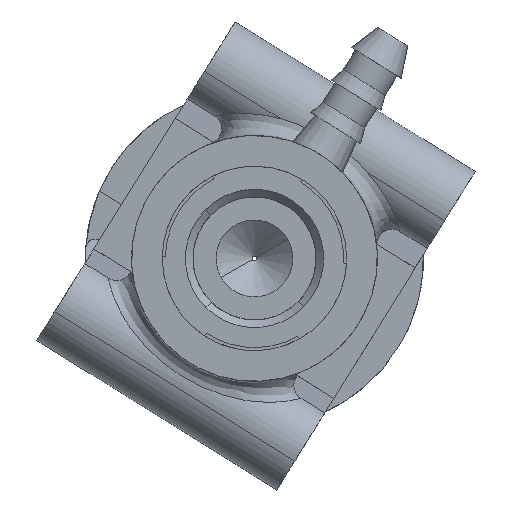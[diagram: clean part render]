
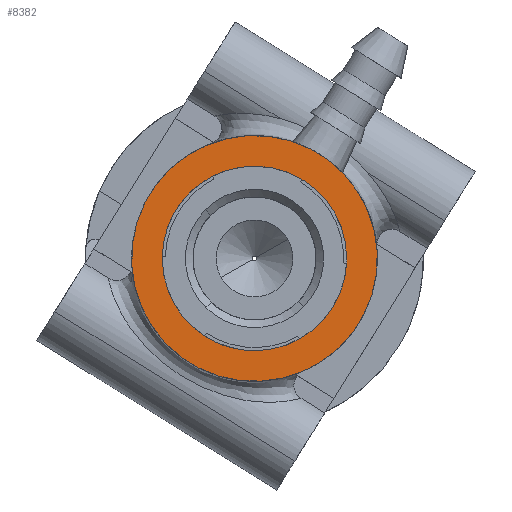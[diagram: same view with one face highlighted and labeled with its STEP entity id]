
A CAD part, front view. The second image highlights one B-rep face of the part: STEP entity #8382.
In plain terms, the highlighted planar face has unit normal (0, -1, 0).
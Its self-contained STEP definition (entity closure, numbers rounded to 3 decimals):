
#8284=AXIS2_PLACEMENT_3D('Circle Axis2P3D',#8282,#8283,$) ;
#8321=AXIS2_PLACEMENT_3D('Circle Axis2P3D',#8319,#8320,$) ;
#8358=AXIS2_PLACEMENT_3D('Plane Axis2P3D',#8355,#8356,#8357) ;
#8366=AXIS2_PLACEMENT_3D('Circle Axis2P3D',#8364,#8365,$) ;
#8375=AXIS2_PLACEMENT_3D('Circle Axis2P3D',#8373,#8374,$) ;
#8272=CARTESIAN_POINT('Vertex',(-186.882,-1373.001,344.406)) ;
#8279=CARTESIAN_POINT('Vertex',(-171.57,-1373.001,339.765)) ;
#8282=CARTESIAN_POINT('Axis2P3D Location',(-179.226,-1373.001,342.086)) ;
#8319=CARTESIAN_POINT('Axis2P3D Location',(-179.226,-1373.001,342.086)) ;
#8355=CARTESIAN_POINT('Axis2P3D Location',(0.,-1373.001,0.)) ;
#8364=CARTESIAN_POINT('Axis2P3D Location',(-179.226,-1373.001,342.086)) ;
#8368=CARTESIAN_POINT('Vertex',(-185.226,-1373.001,342.086)) ;
#8370=CARTESIAN_POINT('Vertex',(-173.226,-1373.001,342.086)) ;
#8373=CARTESIAN_POINT('Axis2P3D Location',(-179.226,-1373.001,342.086)) ;
#8283=DIRECTION('Axis2P3D Direction',(0.,1.,0.)) ;
#8320=DIRECTION('Axis2P3D Direction',(0.,1.,0.)) ;
#8356=DIRECTION('Axis2P3D Direction',(0.,-1.,0.)) ;
#8357=DIRECTION('Axis2P3D XDirection',(1.,0.,0.)) ;
#8365=DIRECTION('Axis2P3D Direction',(0.,-1.,0.)) ;
#8374=DIRECTION('Axis2P3D Direction',(0.,-1.,0.)) ;
#8361=ORIENTED_EDGE('',*,*,#8286,.T.) ;
#8362=ORIENTED_EDGE('',*,*,#8323,.T.) ;
#8379=ORIENTED_EDGE('',*,*,#8372,.F.) ;
#8380=ORIENTED_EDGE('',*,*,#8377,.F.) ;
#8381=FACE_BOUND('',#8378,.T.) ;
#8382=ADVANCED_FACE('MANIFOLD_SOLID_BREP #410',(#8363,#8381),#8359,.T.) ;
#8285=CIRCLE('generated circle',#8284,8.) ;
#8322=CIRCLE('generated circle',#8321,8.) ;
#8367=CIRCLE('generated circle',#8366,6.) ;
#8376=CIRCLE('generated circle',#8375,6.) ;
#8286=EDGE_CURVE('',#8273,#8280,#8285,.F.) ;
#8323=EDGE_CURVE('',#8280,#8273,#8322,.F.) ;
#8372=EDGE_CURVE('',#8369,#8371,#8367,.T.) ;
#8377=EDGE_CURVE('',#8371,#8369,#8376,.T.) ;
#8360=EDGE_LOOP('',(#8361,#8362)) ;
#8378=EDGE_LOOP('',(#8379,#8380)) ;
#8363=FACE_OUTER_BOUND('',#8360,.T.) ;
#8359=PLANE('Plane',#8358) ;
#8273=VERTEX_POINT('',#8272) ;
#8280=VERTEX_POINT('',#8279) ;
#8369=VERTEX_POINT('',#8368) ;
#8371=VERTEX_POINT('',#8370) ;
